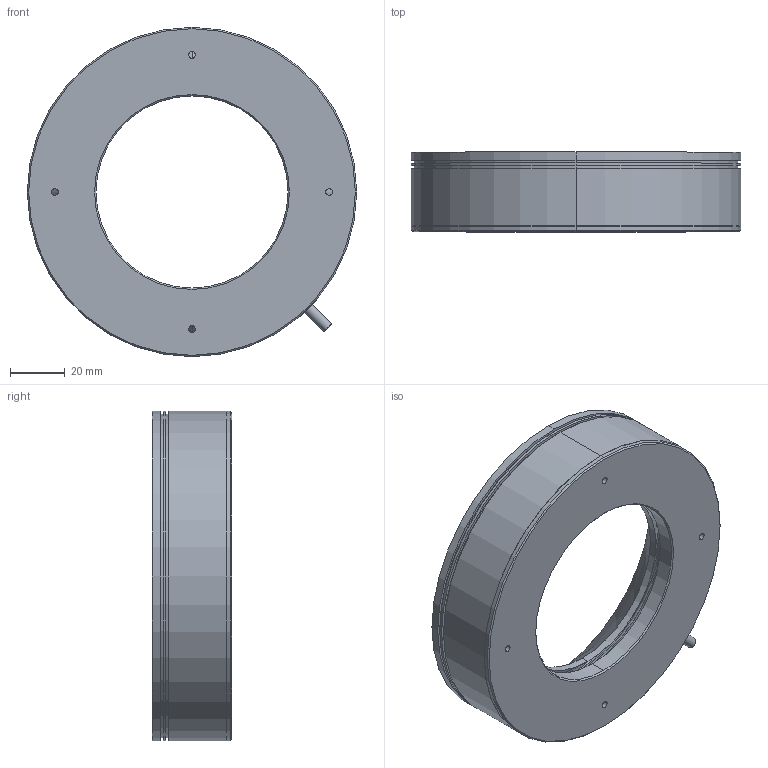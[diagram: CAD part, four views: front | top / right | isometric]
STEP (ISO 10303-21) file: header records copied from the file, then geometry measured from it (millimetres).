
FILE_DESCRIPTION (( 'STEP AP203' ), '1' );
FILE_NAME ('RI12045-W.STEP', '2021-10-11T01:36:30', ( 'Windows 蚚誧' ), ( 'Microsoft' ), 'SwSTEP 2.0', 'SolidWorks 2016', '' );
FILE_SCHEMA (( 'CONFIG_CONTROL_DESIGN' ));
Length unit declared in the file: millimetre
Products named in the file (1): RI12045-W
Bounding box: 120 x 29 x 120 mm (x, y, z)
Volume: 110103.4 mm3; surface area: 88059 mm2
Topology: 3 solids, 3 shells, 112 faces, 238 edges, 138 vertices
Faces by surface type: cone 42, cylinder 36, torus 20, plane 14
Entity records: 3327 total; most frequent: CARTESIAN_POINT 733, DIRECTION 594, ORIENTED_EDGE 476, AXIS2_PLACEMENT_3D 257, EDGE_CURVE 238, CIRCLE 144, VERTEX_POINT 138, EDGE_LOOP 132
